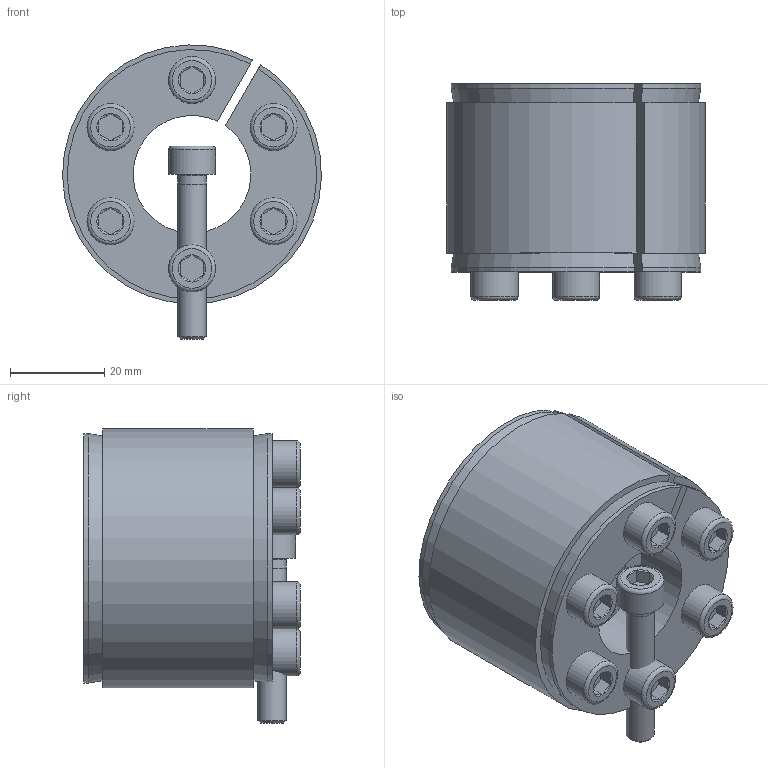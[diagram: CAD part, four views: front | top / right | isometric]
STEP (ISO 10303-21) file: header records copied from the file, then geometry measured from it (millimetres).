
FILE_DESCRIPTION( ( 'Unknown' ), '1' );
FILE_NAME( 'C:/Dokumente und Einstellungen/Sven/Desktop/homepage/cad - homepage/KBS11/KBS 11 - 25 x 55.stp', 'Unknown', ( 'Unknown' ), ( 'Unknown' ), 'XStep 1.0', 'Unknown', ' ' );
FILE_SCHEMA( ( 'automotive_design' ) );
Length unit declared in the file: millimetre
Products named in the file (3): Assem1; KBS 11 - 25 x 55; ISO EN DIN 4762 M6x35
Bounding box: 54.99 x 46 x 62.49 mm (x, y, z)
Volume: 122557.8 mm3; surface area: 53997.7 mm2
Topology: 9 solids, 9 shells, 251 faces, 541 edges, 336 vertices
Faces by surface type: plane 104, cylinder 76, cone 57, torus 14
Full cylindrical faces by diameter (mm): 5 x7, 6 x50, 10 x7
Entity records: 2210 total; most frequent: CARTESIAN_POINT 361, DIRECTION 324, ORIENTED_EDGE 250, AXIS2_PLACEMENT_3D 142, EDGE_LOOP 128, EDGE_CURVE 125, VERTEX_POINT 95, FACE_OUTER_BOUND 87
